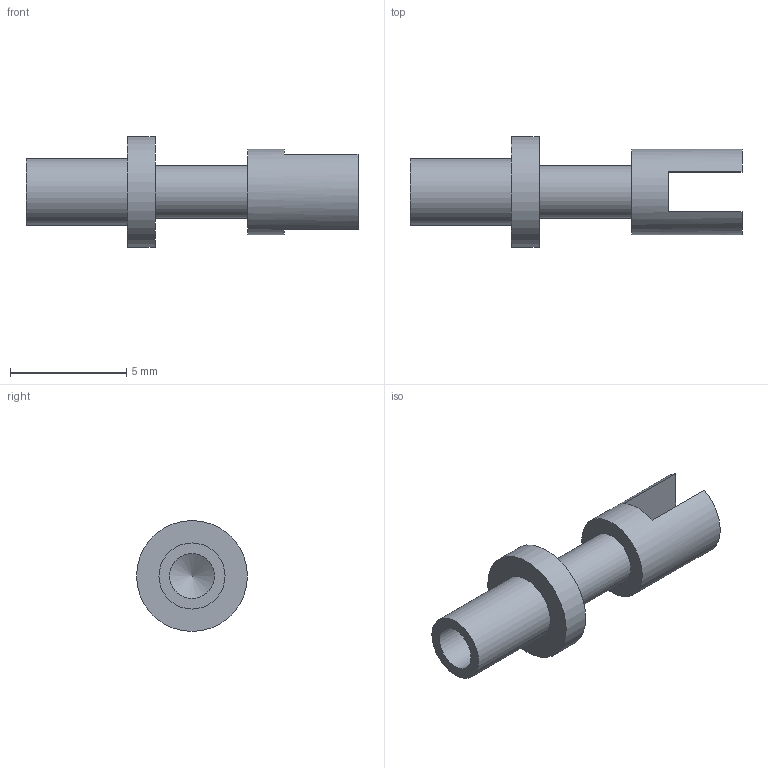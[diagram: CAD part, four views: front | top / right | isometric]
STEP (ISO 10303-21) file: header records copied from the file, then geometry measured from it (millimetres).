
FILE_DESCRIPTION(/* description */ (''),/* implementation_level */ '2;1');
FILE_NAME(/* name */ 'Z:\STEP folder\140-1025-04.ipt.stp',/* time_stamp */ '2016-12-07T10:38:40+00:00',/* author */ ('Paul Karlsons'),/* organization */ (''),/* preprocessor_version */ 'ST-DEVELOPER v15.2',/* originating_system */ 'Autodesk Inventor 2014',/* authorisation */ '');
FILE_SCHEMA (('AUTOMOTIVE_DESIGN { 1 0 10303 214 3 1 1 }'));
Length unit declared in the file: millimetre
Products named in the file (1): 140-1025-04
Bounding box: 14.3 x 4.78 x 4.78 mm (x, y, z)
Volume: 88.8 mm3; surface area: 214.3 mm2
Topology: 1 solids, 1 shells, 15 faces, 29 edges, 19 vertices
Faces by surface type: plane 9, cylinder 5, cone 1
Full cylindrical faces by diameter (mm): 1.93 x1, 2.286 x1, 2.845 x1, 3.683 x1, 4.775 x1
Entity records: 361 total; most frequent: DIRECTION 66, CARTESIAN_POINT 54, ORIENTED_EDGE 42, AXIS2_PLACEMENT_3D 29, EDGE_LOOP 24, EDGE_CURVE 21, VERTEX_POINT 17, ADVANCED_FACE 15
